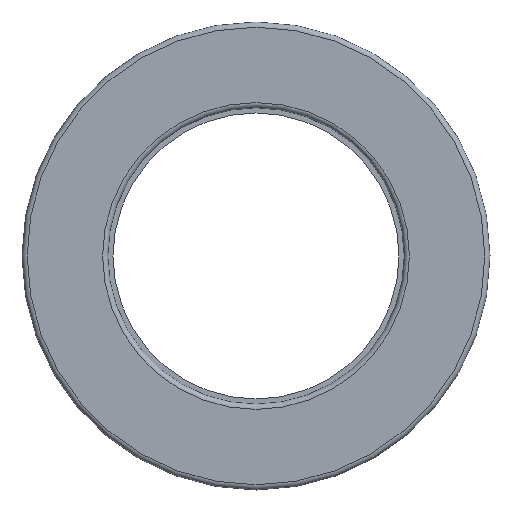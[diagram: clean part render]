
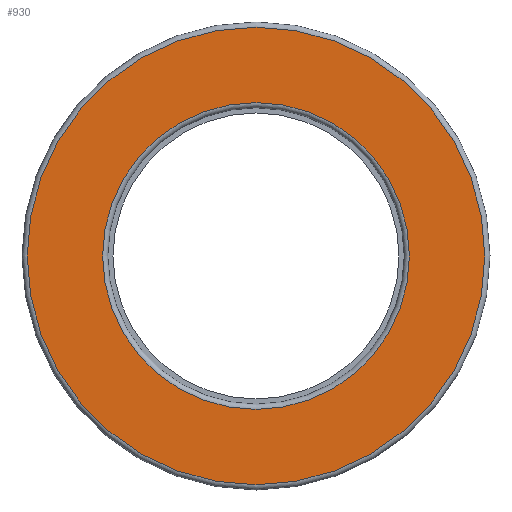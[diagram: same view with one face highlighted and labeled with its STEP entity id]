
A CAD part, front view. The second image highlights one B-rep face of the part: STEP entity #930.
In plain terms, the highlighted planar face has unit normal (0, -1, 0).
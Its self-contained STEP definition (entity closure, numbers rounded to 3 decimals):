
#267=PLANE('',#989);
#313=FACE_BOUND('',#400,.T.);
#346=FACE_OUTER_BOUND('',#399,.T.);
#399=EDGE_LOOP('',(#697));
#400=EDGE_LOOP('',(#698));
#481=CIRCLE('',#988,29.5);
#482=CIRCLE('',#990,44.);
#499=VERTEX_POINT('',#1347);
#500=VERTEX_POINT('',#1350);
#581=EDGE_CURVE('',#499,#499,#481,.T.);
#582=EDGE_CURVE('',#500,#500,#482,.T.);
#697=ORIENTED_EDGE('',*,*,#582,.F.);
#698=ORIENTED_EDGE('',*,*,#581,.T.);
#930=ADVANCED_FACE('',(#346,#313),#267,.T.);
#988=AXIS2_PLACEMENT_3D('',#1348,#1080,#1081);
#989=AXIS2_PLACEMENT_3D('',#1349,#1082,#1083);
#990=AXIS2_PLACEMENT_3D('',#1351,#1084,#1085);
#1080=DIRECTION('center_axis',(0.,1.,0.));
#1081=DIRECTION('ref_axis',(1.,0.,0.));
#1082=DIRECTION('center_axis',(0.,-1.,0.));
#1083=DIRECTION('ref_axis',(0.,0.,-1.));
#1084=DIRECTION('center_axis',(0.,1.,0.));
#1085=DIRECTION('ref_axis',(1.,0.,0.));
#1347=CARTESIAN_POINT('',(-29.5,-12.5,0.));
#1348=CARTESIAN_POINT('Origin',(0.,-12.5,0.));
#1349=CARTESIAN_POINT('Origin',(-44.,-12.5,0.));
#1350=CARTESIAN_POINT('',(-44.,-12.5,0.));
#1351=CARTESIAN_POINT('Origin',(0.,-12.5,0.));
